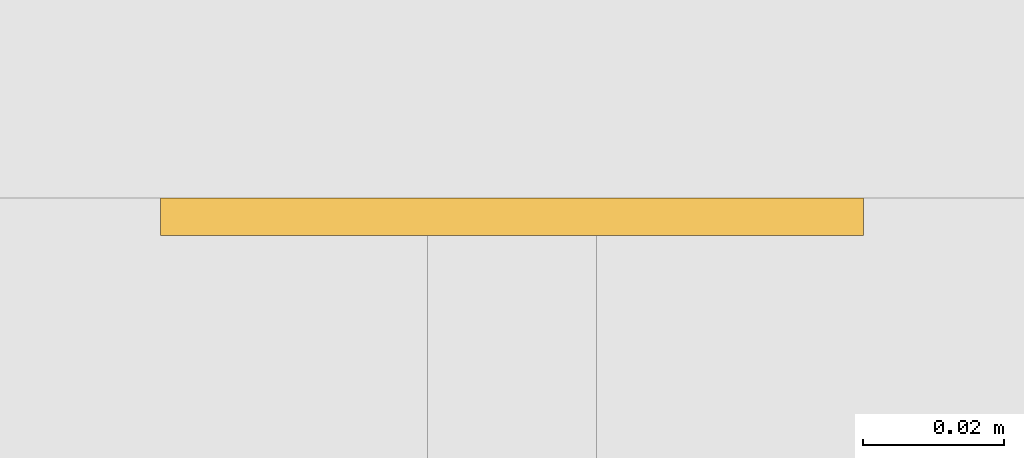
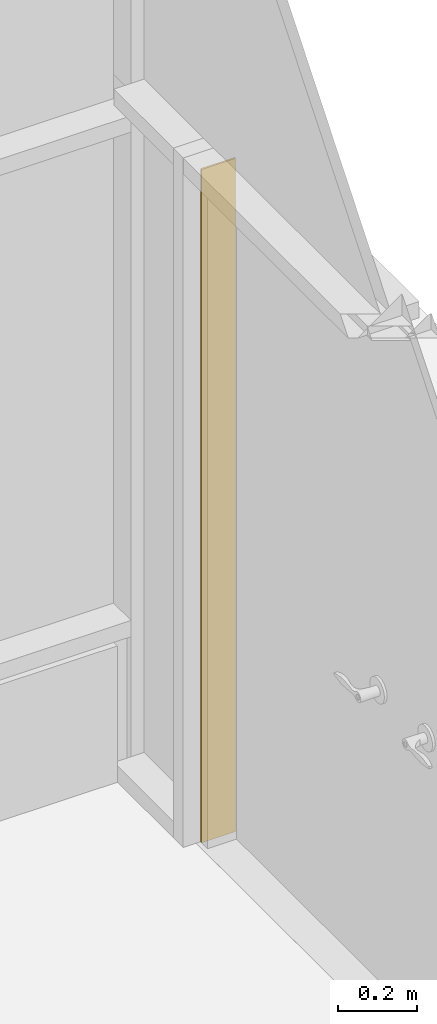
# One storey, part 80 of 100: 1 curtain wall, 1 opening, 1 element without a shape of its own.
"""IFC2X3 building model written with IfcOpenShell, lengths in millimetres."""

from ifc_helpers import new_model, entity, si_unit, converted_unit, derived_unit, direction, frame, frame_2d, origin, place, context, subcontext, project, spatial, rectangle, extrude, material, layer, layer_set, layer_usage, type_object, element, aggregate, save


model = new_model("IFC2X3")

# Units and contexts
model_context = context("Model", 3, precision=0.01, world=origin(), true_north=direction((6.123031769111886e-17, 1.0)))
body_context = subcontext(model_context, "Body", "Model", "MODEL_VIEW")
ifc_project = project(units=[si_unit("LENGTHUNIT", "METRE", prefix="MILLI"), si_unit("AREAUNIT", "SQUARE_METRE"), si_unit("VOLUMEUNIT", "CUBIC_METRE"), converted_unit("PLANEANGLEUNIT", "DEGREE", entity("IfcRatioMeasure", 0.017453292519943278), si_unit("PLANEANGLEUNIT", "RADIAN"), dimensions=[0, 0, 0, 0, 0, 0, 0]), si_unit("MASSUNIT", "GRAM", prefix="KILO"), derived_unit("MASSDENSITYUNIT", [(si_unit("MASSUNIT", "GRAM", prefix="KILO"), 1), (si_unit("LENGTHUNIT", "METRE"), -3)]), derived_unit("MOMENTOFINERTIAUNIT", [(si_unit("LENGTHUNIT", "METRE"), 4)]), si_unit("TIMEUNIT", "SECOND"), si_unit("FREQUENCYUNIT", "HERTZ"), si_unit("THERMODYNAMICTEMPERATUREUNIT", "DEGREE_CELSIUS"), derived_unit("THERMALTRANSMITTANCEUNIT", [(si_unit("MASSUNIT", "GRAM", prefix="KILO"), 1), (si_unit("THERMODYNAMICTEMPERATUREUNIT", "KELVIN"), -1), (si_unit("TIMEUNIT", "SECOND"), -3)]), derived_unit("VOLUMETRICFLOWRATEUNIT", [(si_unit("LENGTHUNIT", "METRE"), 3), (si_unit("TIMEUNIT", "SECOND"), -1)]), derived_unit("MASSFLOWRATEUNIT", [(si_unit("MASSUNIT", "GRAM", prefix="KILO"), 1), (si_unit("TIMEUNIT", "SECOND"), -1)]), derived_unit("ROTATIONALFREQUENCYUNIT", [(si_unit("TIMEUNIT", "SECOND"), -1)]), si_unit("ELECTRICCURRENTUNIT", "AMPERE"), si_unit("ELECTRICVOLTAGEUNIT", "VOLT"), si_unit("POWERUNIT", "WATT"), si_unit("FORCEUNIT", "NEWTON", prefix="KILO"), si_unit("ILLUMINANCEUNIT", "LUX"), si_unit("LUMINOUSFLUXUNIT", "LUMEN"), si_unit("LUMINOUSINTENSITYUNIT", "CANDELA"), derived_unit("USERDEFINED", [(si_unit("MASSUNIT", "GRAM", prefix="KILO"), -1), (si_unit("LENGTHUNIT", "METRE"), -2), (si_unit("TIMEUNIT", "SECOND"), 3), (si_unit("LUMINOUSFLUXUNIT", "LUMEN"), 1)]), derived_unit("SOUNDPOWERUNIT", [(si_unit("MASSUNIT", "GRAM", prefix="KILO"), 1), (si_unit("LENGTHUNIT", "METRE"), 2), (si_unit("TIMEUNIT", "SECOND"), -3)]), derived_unit("SOUNDPRESSUREUNIT", [(si_unit("MASSUNIT", "GRAM", prefix="KILO"), 1), (si_unit("LENGTHUNIT", "METRE"), -1), (si_unit("TIMEUNIT", "SECOND"), -2)]), derived_unit("LINEARVELOCITYUNIT", [(si_unit("LENGTHUNIT", "METRE"), 1), (si_unit("TIMEUNIT", "SECOND"), -1)]), si_unit("PRESSUREUNIT", "PASCAL"), derived_unit("USERDEFINED", [(si_unit("LENGTHUNIT", "METRE"), -2), (si_unit("MASSUNIT", "GRAM", prefix="KILO"), 1), (si_unit("TIMEUNIT", "SECOND"), -2)]), derived_unit("LINEARFORCEUNIT", [(si_unit("MASSUNIT", "GRAM", prefix="KILO"), 1), (si_unit("LENGTHUNIT", "METRE"), 1), (si_unit("TIMEUNIT", "SECOND"), -2), (si_unit("LENGTHUNIT", "METRE"), -1)]), derived_unit("PLANARFORCEUNIT", [(si_unit("MASSUNIT", "GRAM", prefix="KILO"), 1), (si_unit("LENGTHUNIT", "METRE"), 1), (si_unit("TIMEUNIT", "SECOND"), -2), (si_unit("LENGTHUNIT", "METRE"), -2)])], contexts=[model_context])

# Site, building, storey
site_placement = place(None, frame((-14167.972527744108, -657.2125860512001, 0.0)))
site = spatial("IfcSite", under=ifc_project, at=site_placement, Name="Default", CompositionType="ELEMENT")
building_placement = place(site_placement, origin())
building = spatial("IfcBuilding", under=site, at=building_placement, Name="Sample Building", CompositionType="ELEMENT")
storey_placement = place(building_placement, origin())
storey = spatial("IfcBuildingStorey", under=building, at=storey_placement, Name="지상 1층", CompositionType="ELEMENT", Elevation=0.0)

# Curtain walls, opening
curtain_wall_type_1 = type_object("IfcCurtainWallType", Name="커튼월:CW112-스테인리스 스틸 커튼월", PredefinedType="NOTDEFINED")
curtain_wall_1_placement = place(storey_placement, origin())
curtain_wall_1 = element("IfcCurtainWall", 1, at=curtain_wall_1_placement, inside=storey, type_object=curtain_wall_type_1, Name="커튼월:CW112-스테인리스 스틸 커튼월", ObjectType="커튼월:CW112-스테인리스 스틸 커튼월")
ifc_material = material(Name="KBIMS-콘크리트")
ifc_layer = layer(ifc_material, 100.0)
ifc_layer_set = layer_set([ifc_layer], Name="커튼월:CW112-스테인리스 스틸 커튼월")
ifc_layer_usage = layer_usage(ifc_layer_set, "AXIS2", "NEGATIVE", 50.0)
curtain_wall_type_2 = type_object("IfcCurtainWallType", Name="기본 벽:WA111-철근콘크리트구조 벽 100mm", PredefinedType="NOTDEFINED", material=ifc_layer_set)
curtain_wall_2_placement = place(storey_placement, frame((51405.46382893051, 15201.871504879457, -420.0), z_axis=(0.0, 0.0, 1.0), x_axis=(0.0, 1.0, 0.0)))
curtain_wall_2 = element("IfcCurtainWall", 2, at=curtain_wall_2_placement, type_object=curtain_wall_type_2, material=ifc_layer_usage, Name="기본 벽:WA111-철근콘크리트구조 벽 100mm", ObjectType="기본 벽:WA111-철근콘크리트구조 벽 100mm", context=body_context, shape_type="SweptSolid", body=[
    extrude(rectangle(XDim=5.3408782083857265, YDim=100.00000000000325, at=frame_2d((-1.0829115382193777e-12, 4.334310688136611e-12), x_axis=(1.0, 0.0))), frame((2.67043910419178, 0.0, 0.0), z_axis=(0.0, 0.0, 1.0), x_axis=(-1.0, 0.0, 0.0)), (0.0, 0.0, 1.0), 2075.0),
])
opening_placement = place(curtain_wall_2_placement, frame((0.0, 50.0, 0.0)))
element("IfcOpeningElement", 3, at=opening_placement, cuts=curtain_wall_2, Name="DR120-쌍여닫이문:DR120-쌍여닫이문:1", ObjectType="Opening", context=body_context, shape_type="SweptSolid", body=[
    extrude(rectangle(XDim=2099.9999999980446, YDim=1749.9999999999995, at=frame_2d((1049.9999999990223, 874.9999999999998), x_axis=(1.0, 0.0))), frame((0.0, 0.0, 0.0), z_axis=(0.0, -1.0, 0.0), x_axis=(0.0, 0.0, 1.0)), (0.0, 0.0, 1.0), 100.0),
])
aggregate(curtain_wall_1, [curtain_wall_2])

save(model, "model.ifc")
